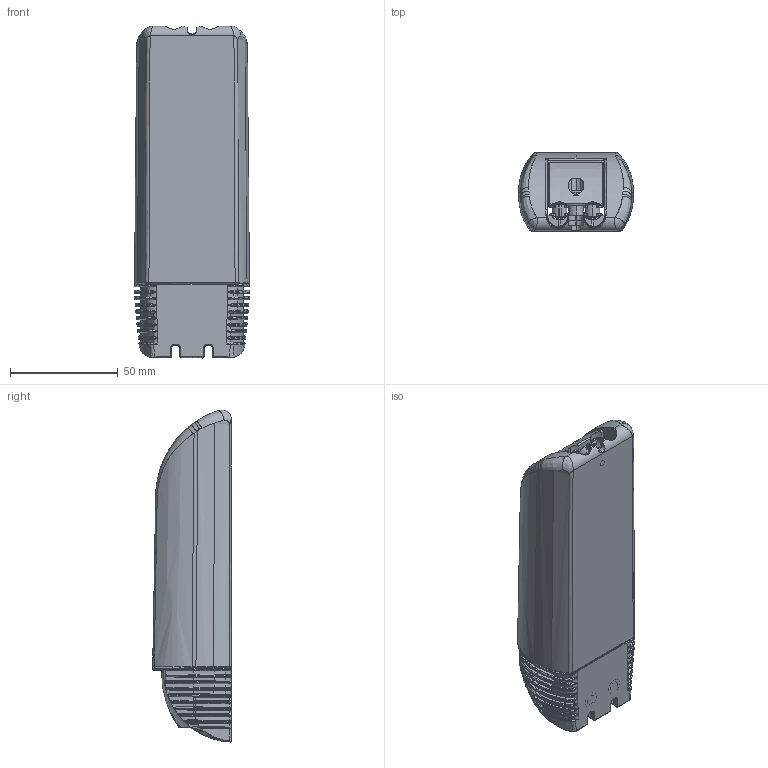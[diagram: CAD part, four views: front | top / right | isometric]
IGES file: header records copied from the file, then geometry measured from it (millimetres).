
Start section: SolidWorks IGES file using analytic representation for surfaces
Global section: file name: H:\Nascimben\AAA-BLDB\HALOTRONIC\HTM\HTM-150-mkt\HTM-150-ASSEMBLY.IGS; native system: SolidWorks 2009; preprocessor: SolidWorks 2009; author: d.nascimben; date: 100208.111543; units: millimetre
Bounding box: 53.28 x 36.48 x 153.99 mm (x, y, z)
Surface area: 67240.5 mm2 (no closed solid volume)
Topology: 0 solids, 0 shells, 2419 faces, 28020 edges, 27707 vertices
Faces by surface type: bspline 2169, revolution 250
